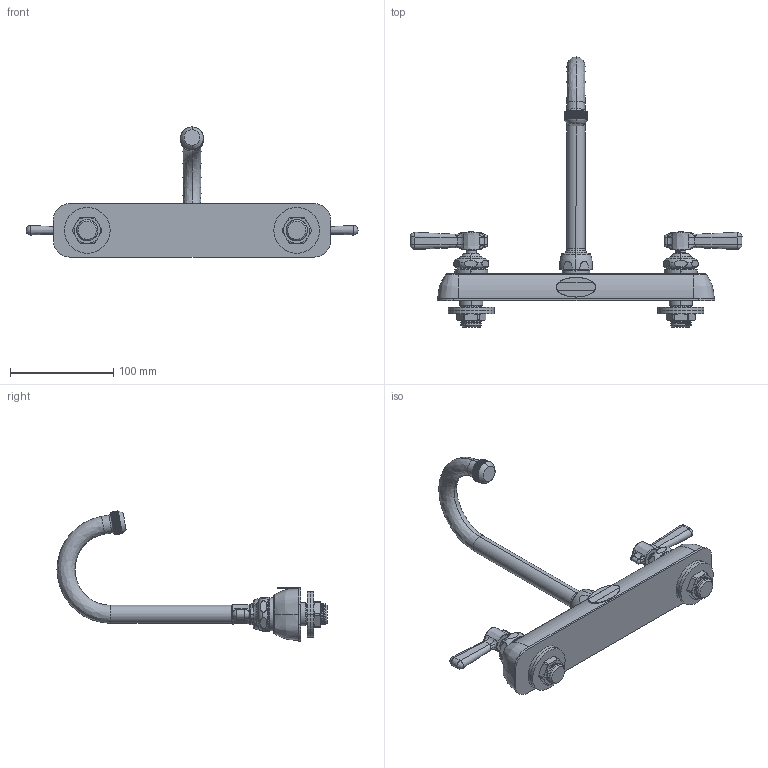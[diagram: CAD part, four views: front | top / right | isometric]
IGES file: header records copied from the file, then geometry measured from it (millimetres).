
Start section:  PTC IGES file: w8d-gn1ae1-369abcp_REV091112.igs
Global section: file name: w8d-gn1ae1-369abcp_REV091112.igs; native system: Pro/ENGINEER by Parametric Technology Corporation; preprocessor: 2011330; author: sdmitruk; organization: Unknown; date: 20120912.080411; units: inch
Bounding box: 322.07 x 261.97 x 126.18 mm (x, y, z)
Surface area: 109162 mm2 (no closed solid volume)
Topology: 0 solids, 0 shells, 743 faces, 6653 edges, 9025 vertices
Faces by surface type: revolution 380, bspline 363
